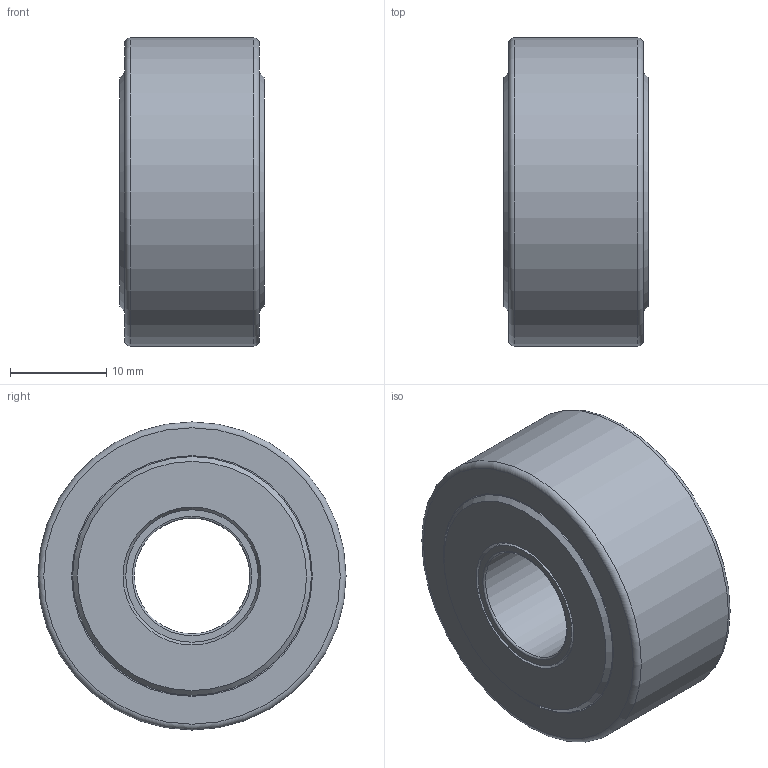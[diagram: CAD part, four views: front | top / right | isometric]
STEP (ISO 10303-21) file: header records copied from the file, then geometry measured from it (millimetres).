
FILE_DESCRIPTION(/* description */ (''),/* implementation_level */ '2;1');
FILE_NAME(/* name */ 'C:\Users\OUREHANEKD\Desktop\Ložiská 3D\MODELY\Ihlove loziska\NATR\NATR--\NATR12.stp',/* time_stamp */ '2016-10-18T14:44:51+02:00',/* author */ ('OUREHANEKD'),/* organization */ (''),/* preprocessor_version */ 'ST-DEVELOPER v15.6',/* originating_system */ 'Autodesk Inventor 2015',/* authorisation */ '');
FILE_SCHEMA (('AUTOMOTIVE_DESIGN { 1 0 10303 214 3 1 1 }'));
Length unit declared in the file: millimetre
Products named in the file (6): NATR12-01; NATR12-02; NATR12-kl; NATR12-needle; NATR12-kr; NATR12
Assembly tree (20 placements, depth 2):
  NATR12
    NATR12-01
    NATR12-02
    NATR12-kl
    NATR12-needle  x16
    NATR12-kr
Bounding box: 15 x 32 x 32 mm (x, y, z)
Volume: 9508.7 mm3; surface area: 8701 mm2
Topology: 21 solids, 21 shells, 84 faces, 106 edges, 68 vertices
Faces by surface type: plane 46, cylinder 30, torus 4, cone 4
Full cylindrical faces by diameter (mm): 2.825 x16, 12 x1, 13.75 x4, 14.8 x1, 16.491 x1, 18.759 x1, 20.45 x1, 24.8 x2, 25 x2, 32 x1
Entity records: 1041 total; most frequent: DIRECTION 206, CARTESIAN_POINT 141, AXIS2_PLACEMENT_3D 103, EDGE_LOOP 76, ORIENTED_EDGE 76, FACE_OUTER_BOUND 39, ADVANCED_FACE 39, CIRCLE 38
